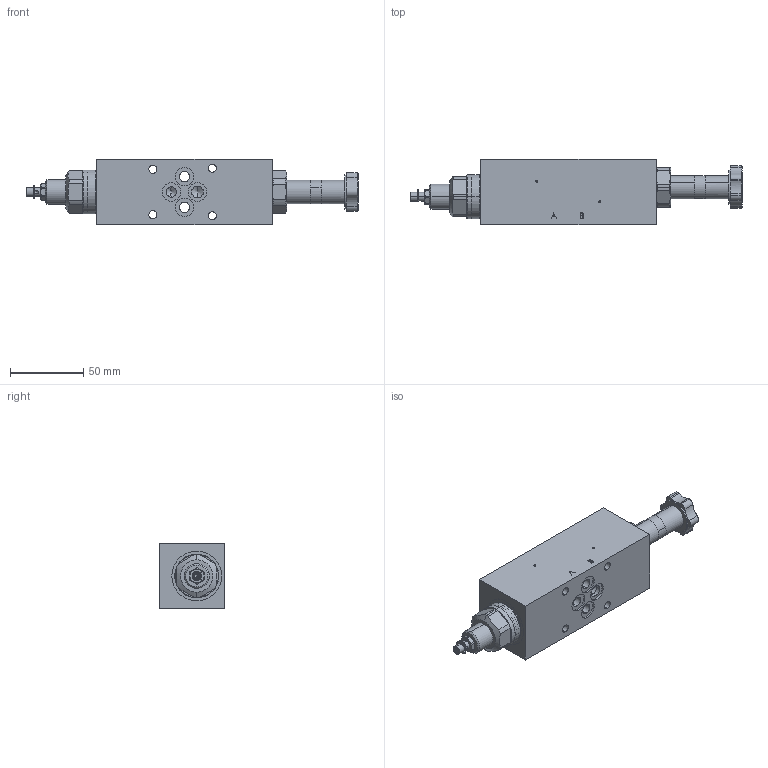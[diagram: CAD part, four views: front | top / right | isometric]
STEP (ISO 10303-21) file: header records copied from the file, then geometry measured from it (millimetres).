
FILE_DESCRIPTION (( 'STEP AP214' ), '1' );
FILE_NAME ('VQSSA06-A.STEP', '2017-04-06T11:06:06', ( '' ), ( '' ), 'SwSTEP 2.0', 'SolidWorks 2016', '' );
FILE_SCHEMA (( 'AUTOMOTIVE_DESIGN' ));
Length unit declared in the file: millimetre
Products named in the file (1): VQSSA06-A
Bounding box: 226.5 x 44.5 x 45 mm (x, y, z)
Volume: 266017.2 mm3; surface area: 40654.3 mm2
Topology: 3 solids, 3 shells, 328 faces, 805 edges, 499 vertices
Faces by surface type: cylinder 129, plane 105, cone 58, torus 27, bspline 9
Entity records: 14079 total; most frequent: CARTESIAN_POINT 2574, DIRECTION 1731, ORIENTED_EDGE 1582, EDGE_CURVE 791, AXIS2_PLACEMENT_3D 700, VERTEX_POINT 499, CIRCLE 380, EDGE_LOOP 376
